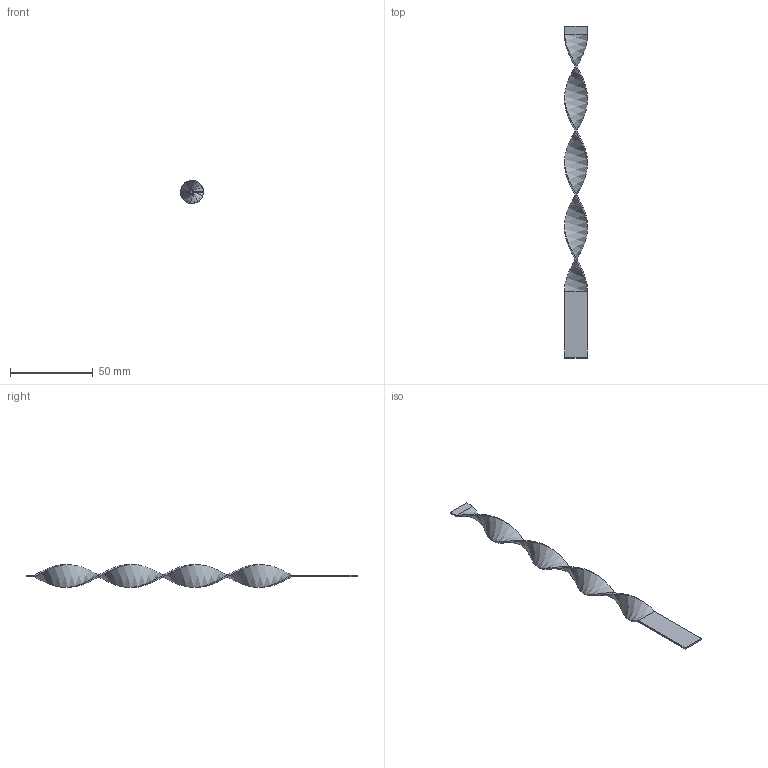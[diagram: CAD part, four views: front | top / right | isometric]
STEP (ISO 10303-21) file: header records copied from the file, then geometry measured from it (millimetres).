
FILE_DESCRIPTION (( 'STEP AP203' ), '1' );
FILE_NAME ('RLAS-14SMx200.STEP', '2015-12-10T14:08:28', ( 'Balzi' ), ( '' ), 'SwSTEP 2.0', 'SolidWorks 2015', '' );
FILE_SCHEMA (( 'CONFIG_CONTROL_DESIGN' ));
Length unit declared in the file: millimetre
Products named in the file (1): RLAS-14SMx200
Bounding box: 14.4 x 200 x 13.84 mm (x, y, z)
Volume: 2761.1 mm3; surface area: 6165 mm2
Topology: 1 solids, 1 shells, 22 faces, 52 edges, 32 vertices
Faces by surface type: plane 18, bspline 4
Entity records: 2201 total; most frequent: CARTESIAN_POINT 1647, ORIENTED_EDGE 104, DIRECTION 86, EDGE_CURVE 52, VECTOR 48, LINE 48, VERTEX_POINT 32, ADVANCED_FACE 22
